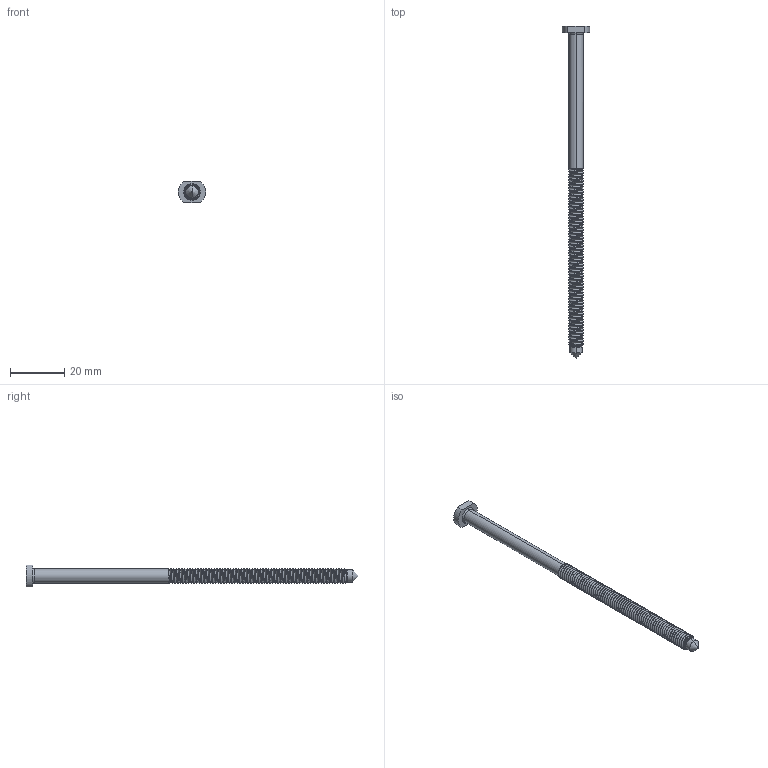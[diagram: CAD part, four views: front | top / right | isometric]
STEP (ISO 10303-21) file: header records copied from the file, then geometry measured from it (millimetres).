
FILE_DESCRIPTION (( 'STEP AP203' ), '1' );
FILE_NAME ('11.04.466-0 Worktop Connector Fix-More Steel Screw M6x120mm BZP.STEP', '2025-12-03T13:24:14', ( '' ), ( '' ), 'SwSTEP 2.0', 'SolidWorks 2024', '' );
FILE_SCHEMA (( 'CONFIG_CONTROL_DESIGN' ));
Length unit declared in the file: millimetre
Products named in the file (1): 11.04.466-0 Worktop Connector Fix-More Steel Screw M6x120mm BZP
Bounding box: 9.96 x 122.5 x 8 mm (x, y, z)
Volume: 2613.9 mm3; surface area: 3032.3 mm2
Topology: 1 solids, 1 shells, 165 faces, 473 edges, 312 vertices
Faces by surface type: cylinder 137, plane 16, cone 6, bspline 4, torus 2
Entity records: 20537 total; most frequent: CARTESIAN_POINT 16951, ORIENTED_EDGE 946, DIRECTION 546, EDGE_CURVE 473, VERTEX_POINT 312, AXIS2_PLACEMENT_3D 188, LINE 170, VECTOR 170
